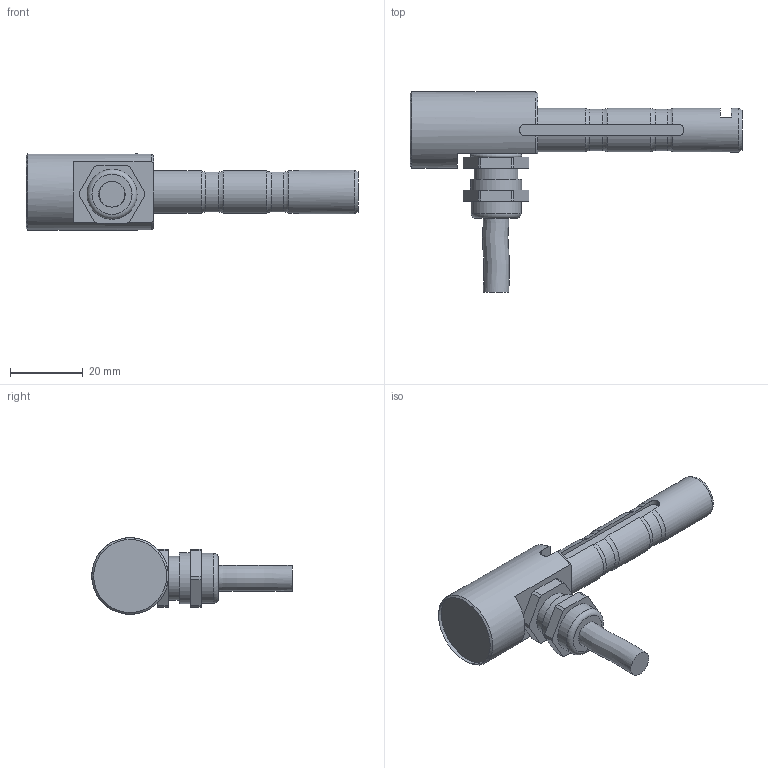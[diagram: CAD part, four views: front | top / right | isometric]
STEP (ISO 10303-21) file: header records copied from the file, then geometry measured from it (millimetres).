
FILE_DESCRIPTION(/* description */ ('Alibre Inc.'),/* implementation_level */ '2;1');
FILE_NAME(/* name */ 'export-865FD1BD-F42C-41A0-8DC8-37C932E487DB',/* time_stamp */ '2024-02-23T09:22:27+01:00',/* author */ (''),/* organization */ (''),/* preprocessor_version */ 'ST-DEVELOPER v17',/* originating_system */ 'Alibre',/* authorisation */ '');
FILE_SCHEMA (('CONFIG_CONTROL_DESIGN'));
Length unit declared in the file: centimetre
Products named in the file (6): ID_1
Bounding box: 91 x 54.91 x 21 mm (x, y, z)
Volume: 19117.7 mm3; surface area: 8292.3 mm2
Topology: 4 solids, 4 shells, 97 faces, 244 edges, 161 vertices
Faces by surface type: plane 42, cylinder 38, torus 10, cone 6, bspline 1
Full cylindrical faces by diameter (mm): 7 x2, 10.5 x1, 12 x3, 13.7 x1, 14 x1, 20 x1, 21 x1
Entity records: 3469 total; most frequent: CARTESIAN_POINT 856, ORIENTED_EDGE 450, DIRECTION 339, EDGE_CURVE 225, VERTEX_POINT 158, AXIS2_PLACEMENT_3D 136, FACE_BOUND 121, EDGE_LOOP 120
